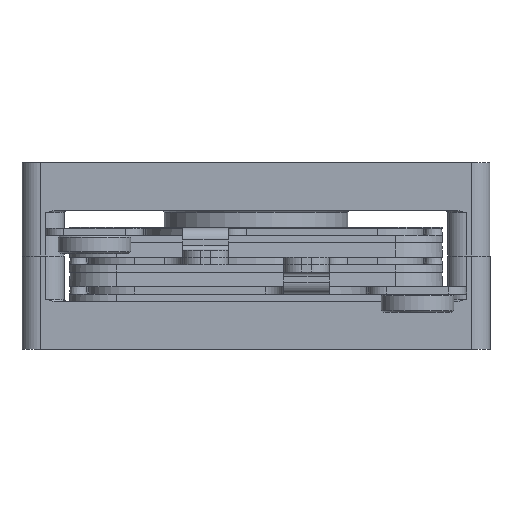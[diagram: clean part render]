
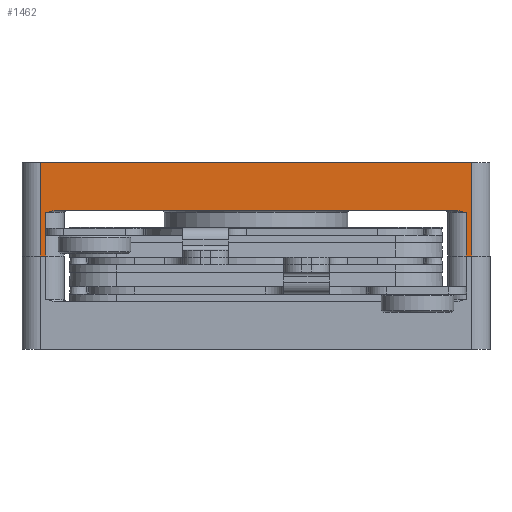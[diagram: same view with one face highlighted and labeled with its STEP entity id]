
A CAD part, front view. The second image highlights one B-rep face of the part: STEP entity #1462.
In plain terms, the highlighted planar face has unit normal (0, -1, 0).
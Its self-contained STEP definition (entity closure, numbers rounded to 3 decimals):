
#1462 = ADVANCED_FACE( '', ( #2838 ), #2839, .T. );
#2838 = FACE_OUTER_BOUND( '', #4178, .T. );
#2839 = PLANE( '', #4179 );
#4178 = EDGE_LOOP( '', ( #8008, #8009, #8010, #8011, #8012, #8013, #8014, #8015, #8016, #8017 ) );
#4179 = AXIS2_PLACEMENT_3D( '', #8018, #8019, #8020 );
#8008 = ORIENTED_EDGE( '', *, *, #9675, .T. );
#8009 = ORIENTED_EDGE( '', *, *, #8892, .T. );
#8010 = ORIENTED_EDGE( '', *, *, #8552, .T. );
#8011 = ORIENTED_EDGE( '', *, *, #8787, .T. );
#8012 = ORIENTED_EDGE( '', *, *, #9202, .T. );
#8013 = ORIENTED_EDGE( '', *, *, #9262, .T. );
#8014 = ORIENTED_EDGE( '', *, *, #8594, .T. );
#8015 = ORIENTED_EDGE( '', *, *, #8645, .T. );
#8016 = ORIENTED_EDGE( '', *, *, #9713, .T. );
#8017 = ORIENTED_EDGE( '', *, *, #9497, .T. );
#8018 = CARTESIAN_POINT( '', ( -25.5, -19.05, 10.16 ) );
#8019 = DIRECTION( '', ( 0., -1., 0. ) );
#8020 = DIRECTION( '', ( 0., 0., -1. ) );
#8552 = EDGE_CURVE( '', #10250, #10251, #10252, .T. );
#8594 = EDGE_CURVE( '', #10325, #10326, #10327, .T. );
#8645 = EDGE_CURVE( '', #10326, #10411, #10412, .T. );
#8787 = EDGE_CURVE( '', #10251, #10645, #10647, .T. );
#8892 = EDGE_CURVE( '', #10811, #10250, #10814, .T. );
#9202 = EDGE_CURVE( '', #10645, #11274, #11275, .F. );
#9262 = EDGE_CURVE( '', #11274, #10325, #11358, .T. );
#9497 = EDGE_CURVE( '', #11660, #11664, #11666, .T. );
#9675 = EDGE_CURVE( '', #11664, #10811, #11877, .T. );
#9713 = EDGE_CURVE( '', #10411, #11660, #11916, .T. );
#10250 = VERTEX_POINT( '', #12704 );
#10251 = VERTEX_POINT( '', #12705 );
#10252 = LINE( '', #12706, #12707 );
#10325 = VERTEX_POINT( '', #12807 );
#10326 = VERTEX_POINT( '', #12808 );
#10327 = B_SPLINE_CURVE_WITH_KNOTS( '', 3, ( #12809, #12810, #12811, #12812, #12813, #12814 ), .UNSPECIFIED., .F., .F., ( 4, 2, 4 ), ( 0., 0.001, 0.001 ), .UNSPECIFIED. );
#10411 = VERTEX_POINT( '', #12947 );
#10412 = LINE( '', #12948, #12949 );
#10645 = VERTEX_POINT( '', #13267 );
#10647 = LINE( '', #13269, #13270 );
#10811 = VERTEX_POINT( '', #13547 );
#10814 = LINE( '', #13551, #13552 );
#11274 = VERTEX_POINT( '', #14387 );
#11275 = B_SPLINE_CURVE_WITH_KNOTS( '', 3, ( #14388, #14389, #14390, #14391, #14392, #14393 ), .UNSPECIFIED., .F., .F., ( 4, 2, 4 ), ( 0., 0.001, 0.001 ), .UNSPECIFIED. );
#11358 = LINE( '', #14507, #14508 );
#11660 = VERTEX_POINT( '', #15094 );
#11664 = VERTEX_POINT( '', #15099 );
#11666 = LINE( '', #15101, #15102 );
#11877 = LINE( '', #15452, #15453 );
#11916 = LINE( '', #15500, #15501 );
#12704 = CARTESIAN_POINT( '', ( 23.5, -19.05, 10.16 ) );
#12705 = CARTESIAN_POINT( '', ( 22.9, -19.05, 10.16 ) );
#12706 = CARTESIAN_POINT( '', ( 25.5, -19.05, 10.16 ) );
#12707 = VECTOR( '', #15759, 1000. );
#12807 = CARTESIAN_POINT( '', ( -21.869, -19.05, 5.21 ) );
#12808 = CARTESIAN_POINT( '', ( -22.9, -19.05, 5.46 ) );
#12809 = CARTESIAN_POINT( '', ( -21.869, -19.05, 5.21 ) );
#12810 = CARTESIAN_POINT( '', ( -22.048, -19.05, 5.21 ) );
#12811 = CARTESIAN_POINT( '', ( -22.222, -19.05, 5.247 ) );
#12812 = CARTESIAN_POINT( '', ( -22.565, -19.05, 5.341 ) );
#12813 = CARTESIAN_POINT( '', ( -22.733, -19.05, 5.401 ) );
#12814 = CARTESIAN_POINT( '', ( -22.9, -19.05, 5.46 ) );
#12947 = CARTESIAN_POINT( '', ( -22.9, -19.05, 10.16 ) );
#12948 = CARTESIAN_POINT( '', ( -22.9, -19.05, 10.16 ) );
#12949 = VECTOR( '', #15862, 1000. );
#13267 = CARTESIAN_POINT( '', ( 22.9, -19.05, 5.46 ) );
#13269 = CARTESIAN_POINT( '', ( 22.9, -19.05, 5.21 ) );
#13270 = VECTOR( '', #16001, 1000. );
#13547 = CARTESIAN_POINT( '', ( 23.5, -19.05, 0. ) );
#13551 = CARTESIAN_POINT( '', ( 23.5, -19.05, 10.16 ) );
#13552 = VECTOR( '', #16084, 1000. );
#14387 = CARTESIAN_POINT( '', ( 21.869, -19.05, 5.21 ) );
#14388 = CARTESIAN_POINT( '', ( 21.869, -19.05, 5.21 ) );
#14389 = CARTESIAN_POINT( '', ( 22.048, -19.05, 5.21 ) );
#14390 = CARTESIAN_POINT( '', ( 22.222, -19.05, 5.247 ) );
#14391 = CARTESIAN_POINT( '', ( 22.565, -19.05, 5.341 ) );
#14392 = CARTESIAN_POINT( '', ( 22.733, -19.05, 5.401 ) );
#14393 = CARTESIAN_POINT( '', ( 22.9, -19.05, 5.46 ) );
#14507 = CARTESIAN_POINT( '', ( 20.9, -19.05, 5.21 ) );
#14508 = VECTOR( '', #16347, 1000. );
#15094 = CARTESIAN_POINT( '', ( -23.5, -19.05, 10.16 ) );
#15099 = CARTESIAN_POINT( '', ( -23.5, -19.05, 0. ) );
#15101 = CARTESIAN_POINT( '', ( -23.5, -19.05, 0. ) );
#15102 = VECTOR( '', #16491, 1000. );
#15452 = CARTESIAN_POINT( '', ( -25.5, -19.05, 0. ) );
#15453 = VECTOR( '', #16552, 1000. );
#15500 = CARTESIAN_POINT( '', ( -20.9, -19.05, 10.16 ) );
#15501 = VECTOR( '', #16567, 1000. );
#15759 = DIRECTION( '', ( -1., 0., 0. ) );
#15862 = DIRECTION( '', ( 0., 0., 1. ) );
#16001 = DIRECTION( '', ( 0., 0., -1. ) );
#16084 = DIRECTION( '', ( 0., 0., 1. ) );
#16347 = DIRECTION( '', ( -1., 0., 0. ) );
#16491 = DIRECTION( '', ( 0., 0., -1. ) );
#16552 = DIRECTION( '', ( 1., 0., 0. ) );
#16567 = DIRECTION( '', ( -1., 0., 0. ) );
